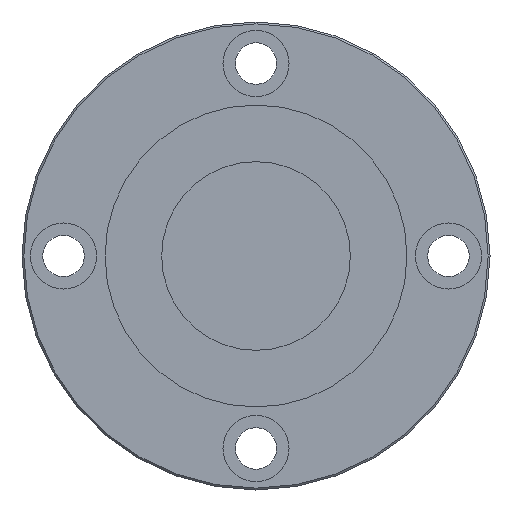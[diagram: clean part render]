
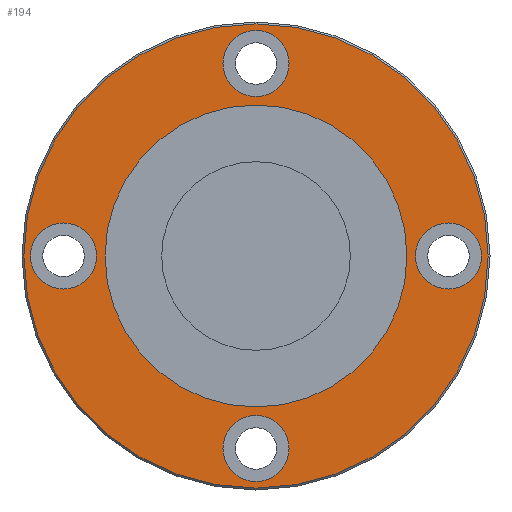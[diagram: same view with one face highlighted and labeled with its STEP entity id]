
A CAD part, left-side view. The second image highlights one B-rep face of the part: STEP entity #194.
In plain terms, the highlighted planar face has unit normal (-1, 0, 0).
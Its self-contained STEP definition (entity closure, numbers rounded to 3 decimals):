
#75 = AXIS2_PLACEMENT_3D ( 'NONE', #1276, #1041, #273 ) ;
#107 = CARTESIAN_POINT ( 'NONE',  ( 0., 0., 0. ) ) ;
#109 = FACE_BOUND ( 'NONE', #1743, .T. ) ;
#116 = CARTESIAN_POINT ( 'NONE',  ( 0., 0., 59.75 ) ) ;
#162 = FACE_BOUND ( 'NONE', #1335, .T. ) ;
#177 = CARTESIAN_POINT ( 'NONE',  ( 0., -51., 8.75 ) ) ;
#194 = ADVANCED_FACE ( 'NONE', ( #1899, #162, #2294, #1481, #109, #696 ), #312, .F. ) ;
#273 = DIRECTION ( 'NONE',  ( 0., 0., -1. ) ) ;
#293 = VERTEX_POINT ( 'NONE', #1926 ) ;
#312 = PLANE ( 'NONE',  #809 ) ;
#324 = VERTEX_POINT ( 'NONE', #1634 ) ;
#362 = CIRCLE ( 'NONE', #2073, 40. ) ;
#371 = VERTEX_POINT ( 'NONE', #1549 ) ;
#379 = EDGE_CURVE ( 'NONE', #324, #1691, #1752, .T. ) ;
#381 = DIRECTION ( 'NONE',  ( 0., 1., 0. ) ) ;
#399 = EDGE_LOOP ( 'NONE', ( #2278, #1590 ) ) ;
#428 = DIRECTION ( 'NONE',  ( -1., 0., 0. ) ) ;
#436 = CARTESIAN_POINT ( 'NONE',  ( 0., -51., 0. ) ) ;
#437 = AXIS2_PLACEMENT_3D ( 'NONE', #1839, #900, #476 ) ;
#470 = CARTESIAN_POINT ( 'NONE',  ( 0., 51., -8.75 ) ) ;
#476 = DIRECTION ( 'NONE',  ( 0., -1., 0. ) ) ;
#485 = VERTEX_POINT ( 'NONE', #116 ) ;
#488 = CIRCLE ( 'NONE', #1888, 8.75 ) ;
#493 = EDGE_CURVE ( 'NONE', #485, #1670, #640, .T. ) ;
#520 = CARTESIAN_POINT ( 'NONE',  ( 0., -51., 0. ) ) ;
#545 = DIRECTION ( 'NONE',  ( 0., 0., -1. ) ) ;
#640 = CIRCLE ( 'NONE', #437, 8.75 ) ;
#650 = CIRCLE ( 'NONE', #1353, 8.75 ) ;
#679 = EDGE_LOOP ( 'NONE', ( #1730, #1526 ) ) ;
#680 = DIRECTION ( 'NONE',  ( 0., 0., -1. ) ) ;
#696 = FACE_BOUND ( 'NONE', #399, .T. ) ;
#704 = DIRECTION ( 'NONE',  ( 0., 0., 1. ) ) ;
#726 = CIRCLE ( 'NONE', #1391, 61.5 ) ;
#731 = CIRCLE ( 'NONE', #75, 61.5 ) ;
#809 = AXIS2_PLACEMENT_3D ( 'NONE', #1702, #1522, #545 ) ;
#810 = CIRCLE ( 'NONE', #1716, 8.75 ) ;
#814 = CARTESIAN_POINT ( 'NONE',  ( 0., 0., 61.5 ) ) ;
#824 = CARTESIAN_POINT ( 'NONE',  ( 0., 0., 0. ) ) ;
#843 = DIRECTION ( 'NONE',  ( 0., 0., -1. ) ) ;
#869 = CARTESIAN_POINT ( 'NONE',  ( 0., 0., 40. ) ) ;
#896 = ORIENTED_EDGE ( 'NONE', *, *, #1070, .F. ) ;
#900 = DIRECTION ( 'NONE',  ( -1., 0., 0. ) ) ;
#901 = ORIENTED_EDGE ( 'NONE', *, *, #1830, .F. ) ;
#902 = CARTESIAN_POINT ( 'NONE',  ( 0., 51., 0. ) ) ;
#927 = CARTESIAN_POINT ( 'NONE',  ( 0., 0., 42.25 ) ) ;
#993 = CARTESIAN_POINT ( 'NONE',  ( 0., 0., 51. ) ) ;
#999 = VERTEX_POINT ( 'NONE', #1281 ) ;
#1041 = DIRECTION ( 'NONE',  ( -1., 0., 0. ) ) ;
#1070 = EDGE_CURVE ( 'NONE', #1691, #324, #488, .T. ) ;
#1095 = CIRCLE ( 'NONE', #1681, 40. ) ;
#1135 = CARTESIAN_POINT ( 'NONE',  ( 0., 0., -42.25 ) ) ;
#1157 = VERTEX_POINT ( 'NONE', #1135 ) ;
#1184 = VERTEX_POINT ( 'NONE', #814 ) ;
#1190 = DIRECTION ( 'NONE',  ( 0., -1., 0. ) ) ;
#1202 = EDGE_CURVE ( 'NONE', #1554, #999, #1469, .T. ) ;
#1220 = DIRECTION ( 'NONE',  ( 0., 0., 1. ) ) ;
#1259 = EDGE_CURVE ( 'NONE', #1157, #371, #2093, .T. ) ;
#1276 = CARTESIAN_POINT ( 'NONE',  ( 0., 0., 0. ) ) ;
#1281 = CARTESIAN_POINT ( 'NONE',  ( 0., 51., 8.75 ) ) ;
#1324 = ORIENTED_EDGE ( 'NONE', *, *, #1780, .F. ) ;
#1335 = EDGE_LOOP ( 'NONE', ( #2067, #1324 ) ) ;
#1353 = AXIS2_PLACEMENT_3D ( 'NONE', #902, #2471, #704 ) ;
#1366 = DIRECTION ( 'NONE',  ( -1., 0., 0. ) ) ;
#1367 = DIRECTION ( 'NONE',  ( -1., 0., 0. ) ) ;
#1391 = AXIS2_PLACEMENT_3D ( 'NONE', #107, #1477, #680 ) ;
#1396 = DIRECTION ( 'NONE',  ( 0., 0., 1. ) ) ;
#1405 = VERTEX_POINT ( 'NONE', #869 ) ;
#1463 = EDGE_LOOP ( 'NONE', ( #1934, #901 ) ) ;
#1469 = CIRCLE ( 'NONE', #2256, 8.75 ) ;
#1477 = DIRECTION ( 'NONE',  ( -1., 0., 0. ) ) ;
#1481 = FACE_BOUND ( 'NONE', #1463, .T. ) ;
#1509 = DIRECTION ( 'NONE',  ( 0., 0., -1. ) ) ;
#1522 = DIRECTION ( 'NONE',  ( 1., 0., 0. ) ) ;
#1526 = ORIENTED_EDGE ( 'NONE', *, *, #1958, .T. ) ;
#1547 = DIRECTION ( 'NONE',  ( -1., 0., 0. ) ) ;
#1549 = CARTESIAN_POINT ( 'NONE',  ( 0., 0., -59.75 ) ) ;
#1554 = VERTEX_POINT ( 'NONE', #470 ) ;
#1567 = DIRECTION ( 'NONE',  ( -1., 0., 0. ) ) ;
#1590 = ORIENTED_EDGE ( 'NONE', *, *, #2078, .F. ) ;
#1614 = DIRECTION ( 'NONE',  ( -1., 0., 0. ) ) ;
#1628 = EDGE_LOOP ( 'NONE', ( #896, #2311 ) ) ;
#1634 = CARTESIAN_POINT ( 'NONE',  ( 0., -51., -8.75 ) ) ;
#1670 = VERTEX_POINT ( 'NONE', #927 ) ;
#1681 = AXIS2_PLACEMENT_3D ( 'NONE', #2359, #1547, #1949 ) ;
#1691 = VERTEX_POINT ( 'NONE', #177 ) ;
#1702 = CARTESIAN_POINT ( 'NONE',  ( 0., 62., 0. ) ) ;
#1716 = AXIS2_PLACEMENT_3D ( 'NONE', #2188, #428, #1770 ) ;
#1730 = ORIENTED_EDGE ( 'NONE', *, *, #2283, .T. ) ;
#1743 = EDGE_LOOP ( 'NONE', ( #2227, #1937 ) ) ;
#1752 = CIRCLE ( 'NONE', #1880, 8.75 ) ;
#1770 = DIRECTION ( 'NONE',  ( 0., 1., 0. ) ) ;
#1772 = DIRECTION ( 'NONE',  ( -1., 0., 0. ) ) ;
#1780 = EDGE_CURVE ( 'NONE', #1670, #485, #2185, .T. ) ;
#1806 = CARTESIAN_POINT ( 'NONE',  ( 0., 0., -40. ) ) ;
#1830 = EDGE_CURVE ( 'NONE', #371, #1157, #810, .T. ) ;
#1839 = CARTESIAN_POINT ( 'NONE',  ( 0., 0., 51. ) ) ;
#1880 = AXIS2_PLACEMENT_3D ( 'NONE', #436, #1366, #843 ) ;
#1888 = AXIS2_PLACEMENT_3D ( 'NONE', #520, #1929, #1509 ) ;
#1899 = FACE_OUTER_BOUND ( 'NONE', #679, .T. ) ;
#1926 = CARTESIAN_POINT ( 'NONE',  ( 0., 0., -61.5 ) ) ;
#1928 = AXIS2_PLACEMENT_3D ( 'NONE', #993, #1367, #1190 ) ;
#1929 = DIRECTION ( 'NONE',  ( -1., 0., 0. ) ) ;
#1934 = ORIENTED_EDGE ( 'NONE', *, *, #1259, .F. ) ;
#1937 = ORIENTED_EDGE ( 'NONE', *, *, #1202, .F. ) ;
#1949 = DIRECTION ( 'NONE',  ( 0., 0., 1. ) ) ;
#1958 = EDGE_CURVE ( 'NONE', #1184, #293, #731, .T. ) ;
#2008 = VERTEX_POINT ( 'NONE', #1806 ) ;
#2067 = ORIENTED_EDGE ( 'NONE', *, *, #493, .F. ) ;
#2073 = AXIS2_PLACEMENT_3D ( 'NONE', #824, #1614, #1220 ) ;
#2078 = EDGE_CURVE ( 'NONE', #2008, #1405, #1095, .T. ) ;
#2093 = CIRCLE ( 'NONE', #2182, 8.75 ) ;
#2151 = CARTESIAN_POINT ( 'NONE',  ( 0., 0., -51. ) ) ;
#2182 = AXIS2_PLACEMENT_3D ( 'NONE', #2151, #1772, #381 ) ;
#2185 = CIRCLE ( 'NONE', #1928, 8.75 ) ;
#2188 = CARTESIAN_POINT ( 'NONE',  ( 0., 0., -51. ) ) ;
#2227 = ORIENTED_EDGE ( 'NONE', *, *, #2377, .F. ) ;
#2236 = EDGE_CURVE ( 'NONE', #1405, #2008, #362, .T. ) ;
#2256 = AXIS2_PLACEMENT_3D ( 'NONE', #2395, #1567, #1396 ) ;
#2278 = ORIENTED_EDGE ( 'NONE', *, *, #2236, .F. ) ;
#2283 = EDGE_CURVE ( 'NONE', #293, #1184, #726, .T. ) ;
#2294 = FACE_BOUND ( 'NONE', #1628, .T. ) ;
#2311 = ORIENTED_EDGE ( 'NONE', *, *, #379, .F. ) ;
#2359 = CARTESIAN_POINT ( 'NONE',  ( 0., 0., 0. ) ) ;
#2377 = EDGE_CURVE ( 'NONE', #999, #1554, #650, .T. ) ;
#2395 = CARTESIAN_POINT ( 'NONE',  ( 0., 51., 0. ) ) ;
#2471 = DIRECTION ( 'NONE',  ( -1., 0., 0. ) ) ;
